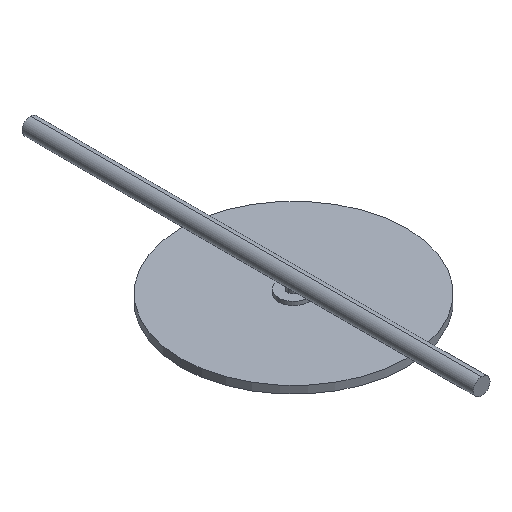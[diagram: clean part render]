
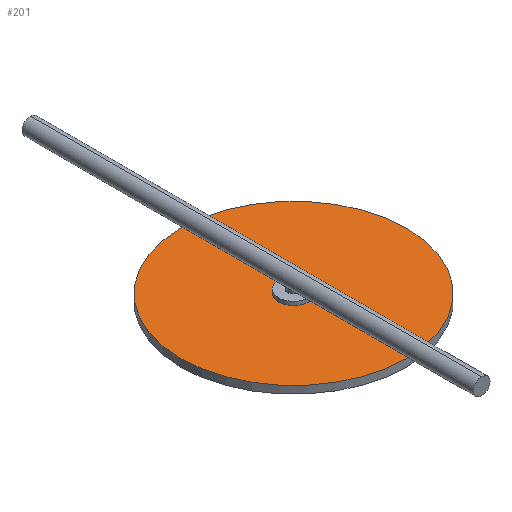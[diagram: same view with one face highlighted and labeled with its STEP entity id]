
A CAD part, isometric view. The second image highlights one B-rep face of the part: STEP entity #201.
In plain terms, the highlighted planar face has unit normal (0, 0, 1).
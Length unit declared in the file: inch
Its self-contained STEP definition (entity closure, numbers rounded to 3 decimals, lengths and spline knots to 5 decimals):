
#6 = DIRECTION ( 'NONE',  ( 1., 0., 0. ) ) ;
#34 = EDGE_CURVE ( 'NONE', #710, #732, #120, .T. ) ;
#60 = DIRECTION ( 'NONE',  ( 0., 0., 1. ) ) ;
#62 = DIRECTION ( 'NONE',  ( 1., 0., 0. ) ) ;
#78 = DIRECTION ( 'NONE',  ( 1., 0., 0. ) ) ;
#120 = CIRCLE ( 'NONE', #943, 0.27559 ) ;
#152 = DIRECTION ( 'NONE',  ( 0., 0., 1. ) ) ;
#154 = CARTESIAN_POINT ( 'NONE',  ( -1.969, -1.80706, 24.40945 ) ) ;
#168 = FACE_BOUND ( 'NONE', #462, .T. ) ;
#174 = CIRCLE ( 'NONE', #256, 5.90551 ) ;
#190 = ORIENTED_EDGE ( 'NONE', *, *, #573, .T. ) ;
#201 = ADVANCED_FACE ( 'NONE', ( #168, #414 ), #838, .T. ) ;
#207 = CIRCLE ( 'NONE', #858, 5.90551 ) ;
#228 = EDGE_CURVE ( 'NONE', #732, #710, #272, .T. ) ;
#256 = AXIS2_PLACEMENT_3D ( 'NONE', #418, #152, #78 ) ;
#272 = CIRCLE ( 'NONE', #886, 0.27559 ) ;
#316 = CARTESIAN_POINT ( 'NONE',  ( 3.93651, -1.80706, 24.40945 ) ) ;
#383 = CARTESIAN_POINT ( 'NONE',  ( 3.93651, -1.80706, 24.40945 ) ) ;
#406 = VERTEX_POINT ( 'NONE', #154 ) ;
#414 = FACE_OUTER_BOUND ( 'NONE', #538, .T. ) ;
#418 = CARTESIAN_POINT ( 'NONE',  ( 3.93651, -1.80706, 24.40945 ) ) ;
#429 = EDGE_CURVE ( 'NONE', #406, #856, #174, .T. ) ;
#436 = DIRECTION ( 'NONE',  ( 0., 0., 1. ) ) ;
#457 = ORIENTED_EDGE ( 'NONE', *, *, #228, .F. ) ;
#462 = EDGE_LOOP ( 'NONE', ( #457, #686 ) ) ;
#499 = CARTESIAN_POINT ( 'NONE',  ( 3.93651, -1.80706, 24.40945 ) ) ;
#500 = ORIENTED_EDGE ( 'NONE', *, *, #429, .T. ) ;
#538 = EDGE_LOOP ( 'NONE', ( #500, #190 ) ) ;
#573 = EDGE_CURVE ( 'NONE', #856, #406, #207, .T. ) ;
#657 = DIRECTION ( 'NONE',  ( 0., 0., 1. ) ) ;
#661 = AXIS2_PLACEMENT_3D ( 'NONE', #679, #436, #6 ) ;
#679 = CARTESIAN_POINT ( 'NONE',  ( 3.93651, -1.80706, 24.40945 ) ) ;
#686 = ORIENTED_EDGE ( 'NONE', *, *, #34, .F. ) ;
#710 = VERTEX_POINT ( 'NONE', #862 ) ;
#732 = VERTEX_POINT ( 'NONE', #950 ) ;
#810 = DIRECTION ( 'NONE',  ( 0., 0., 1. ) ) ;
#831 = DIRECTION ( 'NONE',  ( 1., 0., 0. ) ) ;
#838 = PLANE ( 'NONE',  #661 ) ;
#856 = VERTEX_POINT ( 'NONE', #916 ) ;
#858 = AXIS2_PLACEMENT_3D ( 'NONE', #499, #810, #62 ) ;
#862 = CARTESIAN_POINT ( 'NONE',  ( 3.66092, -1.80706, 24.40945 ) ) ;
#882 = DIRECTION ( 'NONE',  ( 1., 0., 0. ) ) ;
#886 = AXIS2_PLACEMENT_3D ( 'NONE', #316, #657, #831 ) ;
#916 = CARTESIAN_POINT ( 'NONE',  ( 9.84202, -1.80706, 24.40945 ) ) ;
#943 = AXIS2_PLACEMENT_3D ( 'NONE', #383, #60, #882 ) ;
#950 = CARTESIAN_POINT ( 'NONE',  ( 4.2121, -1.80706, 24.40945 ) ) ;
